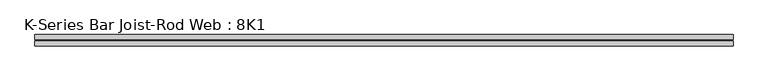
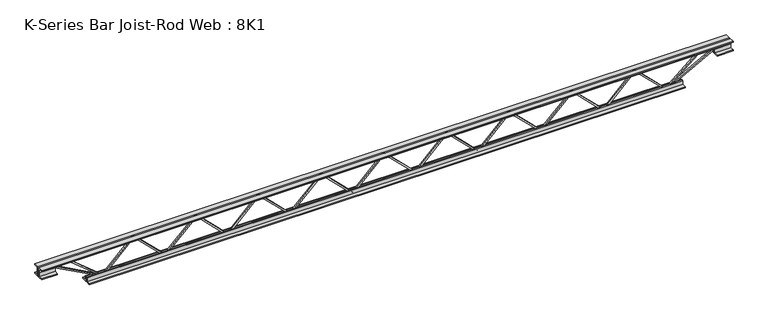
"""IFC4 building model written with IfcOpenShell, lengths in millimetres: beam geometry, K-Series Bar Joist-Rod Web : 8K1."""

from ifc_helpers import new_model, si_unit, frame, origin, place, context, project, spatial, polyline, outline, extrude, source, transform, mapped, element, save


def k_series_bar_joist_rod_web_8k1_857b1893(model_context):
    return source(origin(), model_context, "Body", "SweptSolid", [
        extrude(outline(polyline([(-90.4875, 997.1394773), (-100.0125, 997.1394773), (-100.0125, 1002.2684463), (90.4875, 1195.3463418), (90.4875, 1197.7884038), (-100.0125, 1390.8662992), (-100.0125, 1395.9952683), (-90.4875, 1395.9952683), (-90.4875, 1394.7742373), (100.0125, 1201.6963418), (100.0125, 1191.4384038), (-90.4875, 998.3605083), (-90.4875, 997.1394773)])), frame((0.0, -4.7625, 0.0), z_axis=(0.0, 1.0, 0.0), x_axis=(0.0, 0.0, 1.0)), (0.0, 0.0, 1.0), 9.525),
        extrude(outline(polyline([(-90.4875, 598.2836864), (-100.0125, 598.2836864), (-100.0125, 603.4126554), (90.4875, 796.4905509), (90.4875, 798.9326128), (-100.0125, 992.0105083), (-100.0125, 997.1394773), (-90.4875, 997.1394773), (-90.4875, 995.9184463), (100.0125, 802.8405509), (100.0125, 792.5826128), (-90.4875, 599.5047174), (-90.4875, 598.2836864)])), frame((0.0, -4.7625, 0.0), z_axis=(0.0, 1.0, 0.0), x_axis=(0.0, 0.0, 1.0)), (0.0, 0.0, 1.0), 9.525),
        extrude(outline(polyline([(-90.4875, 199.4278955), (-100.0125, 199.4278955), (-100.0125, 204.5568645), (90.4875, 397.63476), (90.4875, 400.0768219), (-100.0125, 593.1547174), (-100.0125, 598.2836864), (-90.4875, 598.2836864), (-90.4875, 597.0626554), (100.0125, 403.98476), (100.0125, 393.7268219), (-90.4875, 200.6489264), (-90.4875, 199.4278955)])), frame((0.0, -4.7625, 0.0), z_axis=(0.0, 1.0, 0.0), x_axis=(0.0, 0.0, 1.0)), (0.0, 0.0, 1.0), 9.525),
        extrude(outline(polyline([(-90.4875, -199.4278955), (-100.0125, -199.4278955), (-100.0125, -194.2989264), (90.4875, -1.221031), (90.4875, 1.221031), (-100.0125, 194.2989264), (-100.0125, 199.4278955), (-90.4875, 199.4278955), (-90.4875, 198.2068645), (100.0125, 5.128969), (100.0125, -5.128969), (-90.4875, -198.2068645), (-90.4875, -199.4278955)])), frame((0.0, -4.7625, 0.0), z_axis=(0.0, 1.0, 0.0), x_axis=(0.0, 0.0, 1.0)), (0.0, 0.0, 1.0), 9.525),
        extrude(outline(polyline([(-90.4875, -598.2836864), (-100.0125, -598.2836864), (-100.0125, -593.1547174), (90.4875, -400.0768219), (90.4875, -397.63476), (-100.0125, -204.5568645), (-100.0125, -199.4278955), (-90.4875, -199.4278955), (-90.4875, -200.6489264), (100.0125, -393.7268219), (100.0125, -403.98476), (-90.4875, -597.0626554), (-90.4875, -598.2836864)])), frame((0.0, -4.7625, 0.0), z_axis=(0.0, 1.0, 0.0), x_axis=(0.0, 0.0, 1.0)), (0.0, 0.0, 1.0), 9.525),
        extrude(outline(polyline([(-90.4875, -997.1394773), (-100.0125, -997.1394773), (-100.0125, -992.0105083), (90.4875, -798.9326128), (90.4875, -796.4905509), (-100.0125, -603.4126554), (-100.0125, -598.2836864), (-90.4875, -598.2836864), (-90.4875, -599.5047174), (100.0125, -792.5826128), (100.0125, -802.8405509), (-90.4875, -995.9184463), (-90.4875, -997.1394773)])), frame((0.0, -4.7625, 0.0), z_axis=(0.0, 1.0, 0.0), x_axis=(0.0, 0.0, 1.0)), (0.0, 0.0, 1.0), 9.525),
        extrude(outline(polyline([(-90.4875, -1395.9952683), (-100.0125, -1395.9952683), (-100.0125, -1390.8662992), (90.4875, -1197.7884038), (90.4875, -1195.3463418), (-100.0125, -1002.2684463), (-100.0125, -997.1394773), (-90.4875, -997.1394773), (-90.4875, -998.3605083), (100.0125, -1191.4384038), (100.0125, -1201.6963418), (-90.4875, -1394.7742373), (-90.4875, -1395.9952683)])), frame((0.0, -4.7625, 0.0), z_axis=(0.0, 1.0, 0.0), x_axis=(0.0, 0.0, 1.0)), (0.0, 0.0, 1.0), 9.525),
        extrude(outline(polyline([(-90.4875, 1395.9952683), (-100.0125, 1395.9952683), (-100.0125, 1401.1242373), (90.4875, 1594.2021327), (90.4875, 1596.6441947), (-100.0125, 1789.7220902), (-100.0125, 1794.8510592), (-90.4875, 1794.8510592), (-90.4875, 1793.6300282), (100.0125, 1600.5521327), (100.0125, 1590.2941947), (-90.4875, 1397.2162992), (-90.4875, 1395.9952683)])), frame((0.0, -4.7625, 0.0), z_axis=(0.0, 1.0, 0.0), x_axis=(0.0, 0.0, 1.0)), (0.0, 0.0, 1.0), 9.525),
        extrude(outline(polyline([(-90.4875, -1794.8510592), (-100.0125, -1794.8510592), (-100.0125, -1789.7220902), (90.4875, -1596.6441947), (90.4875, -1594.2021327), (-100.0125, -1401.1242373), (-100.0125, -1395.9952683), (-90.4875, -1395.9952683), (-90.4875, -1397.2162992), (100.0125, -1590.2941947), (100.0125, -1600.5521327), (-90.4875, -1793.6300282), (-90.4875, -1794.8510592)])), frame((0.0, -4.7625, 0.0), z_axis=(0.0, 1.0, 0.0), x_axis=(0.0, 0.0, 1.0)), (0.0, 0.0, 1.0), 9.525),
        extrude(outline(polyline([(4.7625, 101.6), (36.5125, 101.6), (36.5125, 95.25), (11.1125, 95.25), (11.1125, 69.85), (4.7625, 69.85), (4.7625, 101.6)])), frame((-2201.2510592, 0.0, 0.0), z_axis=(1.0, 0.0, 0.0), x_axis=(0.0, 1.0, 0.0)), (0.0, 0.0, 1.0), 4402.5021184),
        extrude(outline(polyline([(-4.7625, 101.6), (-4.7625, 69.85), (-11.1125, 69.85), (-11.1125, 95.25), (-36.5125, 95.25), (-36.5125, 101.6), (-4.7625, 101.6)])), frame((-2201.2510592, 0.0, 0.0), z_axis=(1.0, 0.0, 0.0), x_axis=(0.0, 1.0, 0.0)), (0.0, 0.0, 1.0), 4402.5021184),
        extrude(outline(polyline([(-4.7625, 38.1), (-36.5125, 38.1), (-36.5125, 44.45), (-11.1125, 44.45), (-11.1125, 69.85), (-4.7625, 69.85), (-4.7625, 38.1)])), frame((-2201.2510592, 0.0, 0.0), z_axis=(1.0, 0.0, 0.0), x_axis=(0.0, 1.0, 0.0)), (0.0, 0.0, 1.0), 101.6),
        extrude(outline(polyline([(36.5125, 38.1), (4.7625, 38.1), (4.7625, 69.85), (11.1125, 69.85), (11.1125, 44.45), (36.5125, 44.45), (36.5125, 38.1)])), frame((-2201.2510592, 0.0, 0.0), z_axis=(1.0, 0.0, 0.0), x_axis=(0.0, 1.0, 0.0)), (0.0, 0.0, 1.0), 101.6),
        extrude(outline(polyline([(4.7625, 38.1), (4.7625, 69.85), (11.1125, 69.85), (11.1125, 44.45), (36.5125, 44.45), (36.5125, 38.1), (4.7625, 38.1)])), frame((2099.6510592, 0.0, 0.0), z_axis=(1.0, 0.0, 0.0), x_axis=(0.0, 1.0, 0.0)), (0.0, 0.0, 1.0), 101.6),
        extrude(outline(polyline([(-4.7625, 38.1), (-36.5125, 38.1), (-36.5125, 44.45), (-11.1125, 44.45), (-11.1125, 69.85), (-4.7625, 69.85), (-4.7625, 38.1)])), frame((2099.6510592, 0.0, 0.0), z_axis=(1.0, 0.0, 0.0), x_axis=(0.0, 1.0, 0.0)), (0.0, 0.0, 1.0), 101.6),
        extrude(outline(polyline([(4.7625, -101.6), (4.7625, -69.85), (11.1125, -69.85), (11.1125, -95.25), (36.5125, -95.25), (36.5125, -101.6), (4.7625, -101.6)])), frame((-1896.4510592, 0.0, 0.0), z_axis=(1.0, 0.0, 0.0), x_axis=(0.0, 1.0, 0.0)), (0.0, 0.0, 1.0), 3792.9021184),
        extrude(outline(polyline([(-4.7625, -101.6), (-36.5125, -101.6), (-36.5125, -95.25), (-11.1125, -95.25), (-11.1125, -69.85), (-4.7625, -69.85), (-4.7625, -101.6)])), frame((-1896.4510592, 0.0, 0.0), z_axis=(1.0, 0.0, 0.0), x_axis=(0.0, 1.0, 0.0)), (0.0, 0.0, 1.0), 3792.9021184),
        extrude(outline(polyline([(0.0, -9.525), (0.0, 0.0), (346.6425392, 0.0), (346.6425392, -9.525), (0.0, -9.525)])), frame((-2101.9193577, 4.7625, 65.662372), z_axis=(0.4762831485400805, 0.0, 0.8792919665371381), x_axis=(0.8792919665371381, 0.0, -0.4762831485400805)), (0.0, 0.0, 1.0), 9.525),
        extrude(outline(polyline([(0.0, -9.525), (0.0, 0.0), (258.9005514, 0.0), (258.9005514, -9.525), (0.0, -9.525)])), frame((-1997.3159847, 4.7625, 66.1815051), z_axis=(0.637696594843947, 0.0, 0.770287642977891), x_axis=(0.770287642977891, 0.0, -0.637696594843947)), (0.0, 0.0, 1.0), 9.525),
        extrude(outline(polyline([(0.0, -9.525), (0.0, 0.0), (346.6425392, 0.0), (346.6425392, -9.525), (0.0, -9.525)])), frame((2101.9193577, -4.7625, 65.662372), z_axis=(-0.47628314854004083, 0.0, 0.8792919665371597), x_axis=(-0.8792919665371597, 0.0, -0.47628314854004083)), (0.0, 0.0, 1.0), 9.525),
        extrude(outline(polyline([(0.0, -9.525), (0.0, 0.0), (258.9005514, 0.0), (258.9005514, -9.525), (0.0, -9.525)])), frame((1997.3159847, -4.7625, 66.1815051), z_axis=(-0.6376965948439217, 0.0, 0.770287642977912), x_axis=(-0.770287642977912, 0.0, -0.6376965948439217)), (0.0, 0.0, 1.0), 9.525),
    ])


if __name__ == "__main__":
    model = new_model("IFC4")
    model_context = context("Model", 3, world=origin())
    ifc_project = project(units=[si_unit("LENGTHUNIT", "METRE", prefix="MILLI")], contexts=[model_context])
    site = spatial("IfcSite", under=ifc_project)
    building = spatial("IfcBuilding", under=site)
    placement = place(None, origin())
    k_series_bar_joist_rod_web_8k1_shape = k_series_bar_joist_rod_web_8k1_857b1893(model_context)
    element("IfcBeam", 1, ObjectType="K-Series Bar Joist-Rod Web : 8K1", at=placement, inside=building, context=model_context, shape_type="MappedRepresentation", body=[
        mapped(k_series_bar_joist_rod_web_8k1_shape, transform((0.0, 0.0, 0.0), x_axis=(1.0, 0.0, 0.0), y_axis=(0.0, 1.0, 0.0), z_axis=(0.0, 0.0, 1.0))),
    ])
    save(model, "model.ifc")
